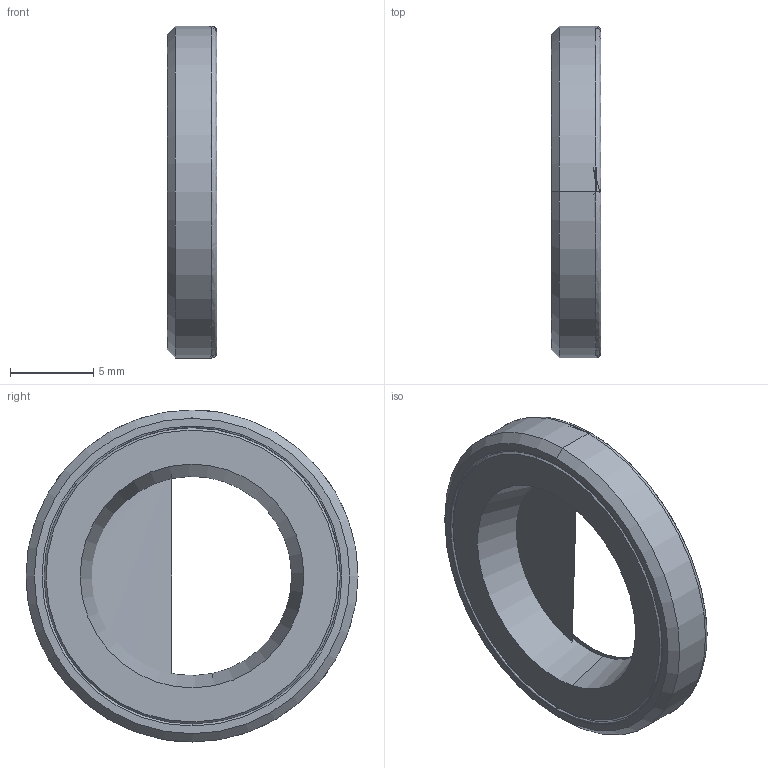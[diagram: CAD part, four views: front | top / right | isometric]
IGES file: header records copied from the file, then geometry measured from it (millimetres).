
Start section: 3D InterOp IGES (Version 21 0 1), Spatial Corp. Copyright (c) 1999-2007.
Global section: file name: DBX-12.igs; native system: Spatial Corp.; preprocessor: 3D InterOp GENERIC/IGES 3.0; author: Noname; organization: Noname; date: 20220216.143444; units: millimetre
Bounding box: 3 x 20 x 20 mm (x, y, z)
Surface area: 1750.3 mm2 (no closed solid volume)
Topology: 0 solids, 0 shells, 43 faces, 188 edges, 180 vertices
Faces by surface type: revolution 36, extrusion 7
